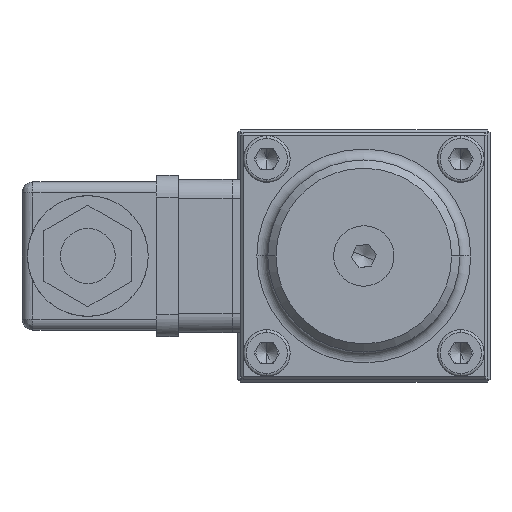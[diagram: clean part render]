
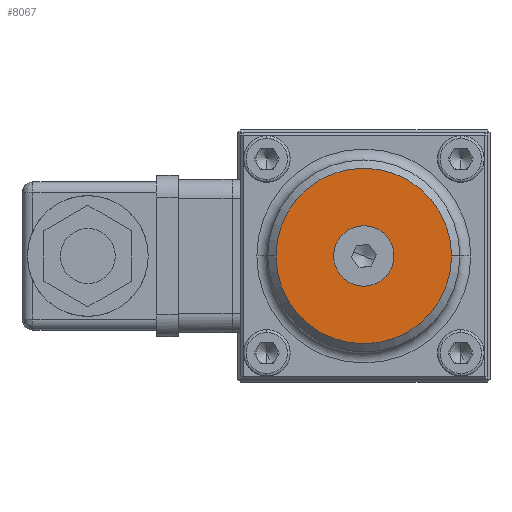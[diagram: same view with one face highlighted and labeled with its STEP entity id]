
A CAD part, left-side view. The second image highlights one B-rep face of the part: STEP entity #8067.
In plain terms, the highlighted planar face has unit normal (-1, 0, 0).
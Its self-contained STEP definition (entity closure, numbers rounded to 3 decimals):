
#194 = DIRECTION ( 'NONE',  ( -1., 0., 0. ) ) ;
#600 = VERTEX_POINT ( 'NONE', #3521 ) ;
#639 = CIRCLE ( 'NONE', #20604, 5.5 ) ;
#1111 = EDGE_LOOP ( 'NONE', ( #1750, #18743 ) ) ;
#1531 = DIRECTION ( 'NONE',  ( -1., 0., 0. ) ) ;
#1750 = ORIENTED_EDGE ( 'NONE', *, *, #16971, .T. ) ;
#2174 = DIRECTION ( 'NONE',  ( 0., 0., 1. ) ) ;
#2413 = FACE_OUTER_BOUND ( 'NONE', #1111, .T. ) ;
#2690 = AXIS2_PLACEMENT_3D ( 'NONE', #19807, #9733, #2174 ) ;
#2866 = ORIENTED_EDGE ( 'NONE', *, *, #10397, .F. ) ;
#3521 = CARTESIAN_POINT ( 'NONE',  ( -64.2, -5.083, -2.1 ) ) ;
#4268 = PLANE ( 'NONE',  #2690 ) ;
#5561 = VERTEX_POINT ( 'NONE', #20940 ) ;
#6091 = AXIS2_PLACEMENT_3D ( 'NONE', #13950, #12217, #8632 ) ;
#6383 = EDGE_CURVE ( 'NONE', #19223, #5561, #17092, .T. ) ;
#6609 = CARTESIAN_POINT ( 'NONE',  ( -64.2, -16., 0. ) ) ;
#8059 = CARTESIAN_POINT ( 'NONE',  ( -64.2, 0., 0. ) ) ;
#8067 = ADVANCED_FACE ( 'NONE', ( #2413, #18415 ), #4268, .T. ) ;
#8632 = DIRECTION ( 'NONE',  ( 0., 0., 1. ) ) ;
#8816 = EDGE_LOOP ( 'NONE', ( #19539, #2866 ) ) ;
#9733 = DIRECTION ( 'NONE',  ( -1., 0., 0. ) ) ;
#10397 = EDGE_CURVE ( 'NONE', #21288, #600, #639, .T. ) ;
#10572 = AXIS2_PLACEMENT_3D ( 'NONE', #14318, #194, #10638 ) ;
#10638 = DIRECTION ( 'NONE',  ( 0., -0.924, -0.382 ) ) ;
#12193 = DIRECTION ( 'NONE',  ( 0., 0., 1. ) ) ;
#12217 = DIRECTION ( 'NONE',  ( -1., 0., 0. ) ) ;
#12728 = CIRCLE ( 'NONE', #6091, 16. ) ;
#13950 = CARTESIAN_POINT ( 'NONE',  ( -64.2, 0., 0. ) ) ;
#14318 = CARTESIAN_POINT ( 'NONE',  ( -64.2, 0., 0. ) ) ;
#15107 = DIRECTION ( 'NONE',  ( 0., -0.924, -0.382 ) ) ;
#16009 = AXIS2_PLACEMENT_3D ( 'NONE', #17276, #1531, #12193 ) ;
#16971 = EDGE_CURVE ( 'NONE', #5561, #19223, #12728, .T. ) ;
#17092 = CIRCLE ( 'NONE', #16009, 16. ) ;
#17276 = CARTESIAN_POINT ( 'NONE',  ( -64.2, 0., 0. ) ) ;
#18415 = FACE_BOUND ( 'NONE', #8816, .T. ) ;
#18743 = ORIENTED_EDGE ( 'NONE', *, *, #6383, .T. ) ;
#19223 = VERTEX_POINT ( 'NONE', #6609 ) ;
#19539 = ORIENTED_EDGE ( 'NONE', *, *, #20959, .F. ) ;
#19807 = CARTESIAN_POINT ( 'NONE',  ( -64.2, 22.5, -22.5 ) ) ;
#19978 = DIRECTION ( 'NONE',  ( -1., 0., 0. ) ) ;
#20184 = CIRCLE ( 'NONE', #10572, 5.5 ) ;
#20604 = AXIS2_PLACEMENT_3D ( 'NONE', #8059, #19978, #15107 ) ;
#20940 = CARTESIAN_POINT ( 'NONE',  ( -64.2, 16., 0. ) ) ;
#20959 = EDGE_CURVE ( 'NONE', #600, #21288, #20184, .T. ) ;
#21288 = VERTEX_POINT ( 'NONE', #21793 ) ;
#21793 = CARTESIAN_POINT ( 'NONE',  ( -64.2, 5.083, 2.1 ) ) ;
